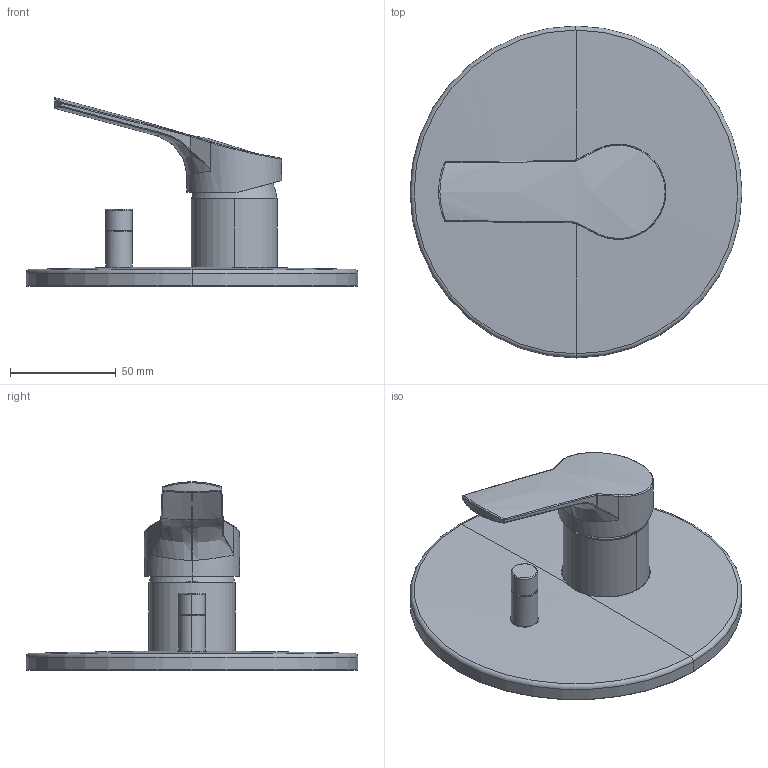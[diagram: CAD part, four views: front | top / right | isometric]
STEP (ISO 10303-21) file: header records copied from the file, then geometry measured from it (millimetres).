
FILE_DESCRIPTION((''),'2;1');
FILE_NAME('F3769X2_FILE_3D','2019-06-14T',('ivanv'),(''),'CREO PARAMETRIC BY PTC INC, 2016260','CREO PARAMETRIC BY PTC INC, 2016260','');
FILE_SCHEMA(('CONFIG_CONTROL_DESIGN'));
Length unit declared in the file: millimetre
Products named in the file (1): F3769X2_FILE_3D
Bounding box: 157 x 157 x 89.12 mm (x, y, z)
Volume: 100872.1 mm3; surface area: 74372.9 mm2
Topology: 5 solids, 5 shells, 1180 faces, 2969 edges, 1825 vertices
Faces by surface type: plane 592, cylinder 201, bspline 149, torus 112, sphere 68, cone 35, extrusion 23
Entity records: 51369 total; most frequent: CARTESIAN_POINT 24105, ORIENTED_EDGE 5934, DIRECTION 5262, EDGE_CURVE 2967, VECTOR 1826, VERTEX_POINT 1825, LINE 1803, AXIS2_PLACEMENT_3D 1718
